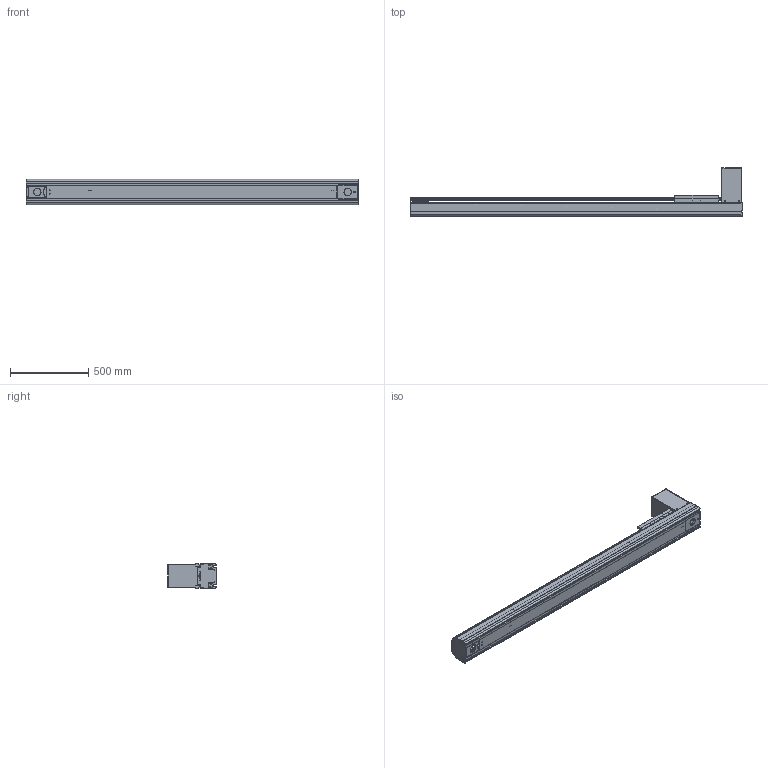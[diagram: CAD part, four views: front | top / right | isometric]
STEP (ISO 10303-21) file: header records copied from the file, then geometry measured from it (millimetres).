
FILE_DESCRIPTION((''),'2;1');
FILE_NAME('BE50G-BT-L19N-F5_IGS_PRT','2017-06-18T',(' '),(''),'PRO/ENGINEER BY PARAMETRIC TECHNOLOGY CORPORATION, 2015030','PRO/ENGINEER BY PARAMETRIC TECHNOLOGY CORPORATION, 2015030','');
FILE_SCHEMA(('CONFIG_CONTROL_DESIGN'));
Products named in the file (1): BE50G-BT-L19N-F5_IGS_PRT
Bounding box: 2120 x 309 x 160 mm (x, y, z)
Volume: 8373125 mm3; surface area: 3834108.8 mm2
Topology: 9 solids, 164 shells, 2003 faces, 5671 edges, 3778 vertices
Faces by surface type: cylinder 1017, plane 791, cone 152, sphere 23, torus 20
Entity records: 67919 total; most frequent: CARTESIAN_POINT 15202, DIRECTION 11057, ORIENTED_EDGE 10582, EDGE_CURVE 5597, AXIS2_PLACEMENT_3D 4151, VERTEX_POINT 3778, VECTOR 2755, LINE 2755
